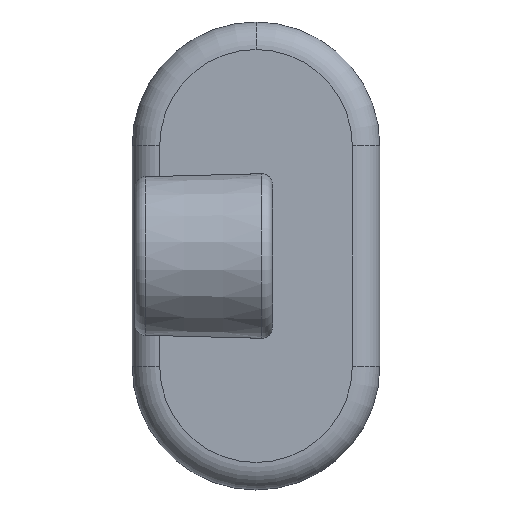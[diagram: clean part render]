
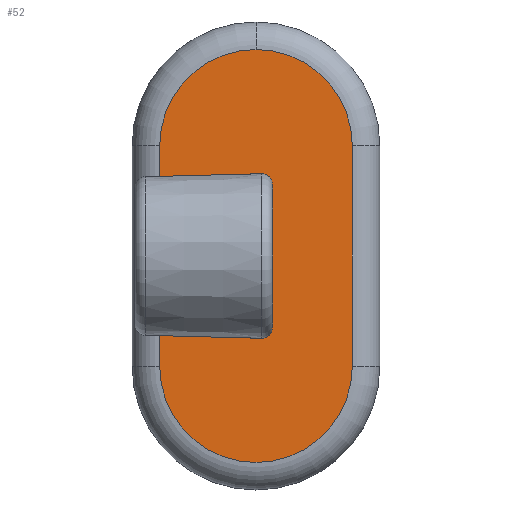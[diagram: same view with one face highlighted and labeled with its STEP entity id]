
A CAD part, left-side view. The second image highlights one B-rep face of the part: STEP entity #52.
In plain terms, the highlighted planar face has unit normal (-1, 0, 0).
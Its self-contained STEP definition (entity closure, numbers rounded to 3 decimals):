
#5 = EDGE_CURVE ( 'Defeatured_0_22+Defeatured_0_28+Defeatured_0_30+Defeatured_0_27', #522, #106, #660, .T. ) ;
#6 = LINE ( 'NONE', #1165, #885 ) ;
#12 = FACE_BOUND ( 'NONE', #1329, .T. ) ;
#14 = EDGE_CURVE ( 'Defeatured_0_6+Defeatured_0_22+Defeatured_0_3+Defeatured_0_0', #1139, #1434, #1444, .T. ) ;
#15 = VERTEX_POINT ( 'NONE', #714 ) ;
#31 = CIRCLE ( 'NONE', #1638, 2. ) ;
#52 = ADVANCED_FACE ( 'Defeatured_0_22', ( #12, #839 ), #287, .F. ) ;
#70 = LINE ( 'NONE', #1202, #458 ) ;
#73 = DIRECTION ( 'NONE',  ( 0., 1., 0. ) ) ;
#100 = CARTESIAN_POINT ( 'NONE',  ( 49.894, 2., -12.947 ) ) ;
#106 = VERTEX_POINT ( 'NONE', #1308 ) ;
#143 = CARTESIAN_POINT ( 'NONE',  ( 49.894, 3., 20. ) ) ;
#176 = EDGE_CURVE ( 'Defeatured_0_7+Defeatured_0_22+Defeatured_0_1+Defeatured_0_3', #15, #1318, #605, .T. ) ;
#177 = ORIENTED_EDGE ( 'NONE', *, *, #1358, .T. ) ;
#178 = VECTOR ( 'NONE', #1804, 1000. ) ;
#213 = ORIENTED_EDGE ( 'NONE', *, *, #176, .F. ) ;
#233 = AXIS2_PLACEMENT_3D ( 'NONE', #650, #1223, #1813 ) ;
#238 = AXIS2_PLACEMENT_3D ( 'NONE', #1154, #1752, #1744 ) ;
#240 = AXIS2_PLACEMENT_3D ( 'NONE', #1592, #1159, #436 ) ;
#261 = LINE ( 'NONE', #680, #388 ) ;
#286 = CARTESIAN_POINT ( 'NONE',  ( 49.894, 2., 12.947 ) ) ;
#287 = PLANE ( 'NONE',  #876 ) ;
#302 = EDGE_LOOP ( 'NONE', ( #1402, #812, #1615, #728, #1860 ) ) ;
#306 = EDGE_CURVE ( 'Defeatured_0_22+Defeatured_0_0+Defeatured_0_5+Defeatured_0_6', #748, #1717, #492, .T. ) ;
#309 = CARTESIAN_POINT ( 'NONE',  ( 49.894, 2.052, 14.946 ) ) ;
#311 = CARTESIAN_POINT ( 'NONE',  ( 49.894, 6., 12.895 ) ) ;
#333 = CIRCLE ( 'NONE', #577, 2. ) ;
#348 = VERTEX_POINT ( 'NONE', #461 ) ;
#386 = DIRECTION ( 'NONE',  ( -1., 0., 0. ) ) ;
#388 = VECTOR ( 'NONE', #1247, 1000. ) ;
#422 = LINE ( 'NONE', #1309, #428 ) ;
#428 = VECTOR ( 'NONE', #882, 1000. ) ;
#436 = DIRECTION ( 'NONE',  ( 0., 0., 1. ) ) ;
#451 = AXIS2_PLACEMENT_3D ( 'NONE', #286, #1132, #73 ) ;
#458 = VECTOR ( 'NONE', #1622, 1000. ) ;
#461 = CARTESIAN_POINT ( 'NONE',  ( 49.894, -14.5, 20. ) ) ;
#485 = ORIENTED_EDGE ( 'NONE', *, *, #306, .T. ) ;
#492 = LINE ( 'NONE', #1067, #178 ) ;
#498 = ORIENTED_EDGE ( 'NONE', *, *, #1275, .F. ) ;
#507 = EDGE_CURVE ( 'Defeatured_0_6+Defeatured_0_22+Defeatured_0_3+Defeatured_0_0', #1434, #1717, #1292, .T. ) ;
#511 = CARTESIAN_POINT ( 'NONE',  ( 49.894, 4., 12.895 ) ) ;
#522 = VERTEX_POINT ( 'NONE', #1009 ) ;
#563 = EDGE_CURVE ( 'Defeatured_0_5+Defeatured_0_22+Defeatured_0_0+Defeatured_0_2', #748, #1370, #333, .T. ) ;
#571 = EDGE_CURVE ( 'Defeatured_0_4+Defeatured_0_22+Defeatured_0_2+Defeatured_0_1', #1158, #625, #31, .T. ) ;
#577 = AXIS2_PLACEMENT_3D ( 'NONE', #511, #683, #1107 ) ;
#587 = ORIENTED_EDGE ( 'NONE', *, *, #1863, .F. ) ;
#605 = CIRCLE ( 'NONE', #1201, 2. ) ;
#625 = VERTEX_POINT ( 'NONE', #1048 ) ;
#632 = VERTEX_POINT ( 'NONE', #766 ) ;
#650 = CARTESIAN_POINT ( 'NONE',  ( 49.894, 3., -20. ) ) ;
#660 = CIRCLE ( 'NONE', #233, 17.5 ) ;
#680 = CARTESIAN_POINT ( 'NONE',  ( 49.894, 0., 15. ) ) ;
#682 = EDGE_CURVE ( 'Defeatured_0_22+Defeatured_0_29+Defeatured_0_27+Defeatured_0_30', #872, #632, #1030, .T. ) ;
#683 = DIRECTION ( 'NONE',  ( -1., 0., 0. ) ) ;
#714 = CARTESIAN_POINT ( 'NONE',  ( 49.894, 2.052, -14.946 ) ) ;
#724 = DIRECTION ( 'NONE',  ( 0., 0., 1. ) ) ;
#726 = DIRECTION ( 'NONE',  ( 0., 0., 1. ) ) ;
#728 = ORIENTED_EDGE ( 'NONE', *, *, #5, .T. ) ;
#730 = CARTESIAN_POINT ( 'NONE',  ( 49.894, 0., -12.947 ) ) ;
#740 = CARTESIAN_POINT ( 'NONE',  ( 49.894, 2., 14.947 ) ) ;
#748 = VERTEX_POINT ( 'NONE', #1526 ) ;
#756 = AXIS2_PLACEMENT_3D ( 'NONE', #1299, #870, #1453 ) ;
#766 = CARTESIAN_POINT ( 'NONE',  ( 49.894, 20.5, 20. ) ) ;
#784 = DIRECTION ( 'NONE',  ( -1., 0., 0. ) ) ;
#791 = CARTESIAN_POINT ( 'NONE',  ( 49.894, 6., -12.895 ) ) ;
#792 = VECTOR ( 'NONE', #1771, 1000. ) ;
#812 = ORIENTED_EDGE ( 'NONE', *, *, #682, .T. ) ;
#824 = ORIENTED_EDGE ( 'NONE', *, *, #14, .F. ) ;
#837 = DIRECTION ( 'NONE',  ( 0., 1., 0. ) ) ;
#839 = FACE_OUTER_BOUND ( 'NONE', #302, .T. ) ;
#870 = DIRECTION ( 'NONE',  ( -1., 0., 0. ) ) ;
#872 = VERTEX_POINT ( 'NONE', #1115 ) ;
#876 = AXIS2_PLACEMENT_3D ( 'NONE', #143, #1589, #724 ) ;
#882 = DIRECTION ( 'NONE',  ( 0., 0., -1. ) ) ;
#885 = VECTOR ( 'NONE', #726, 1000. ) ;
#886 = DIRECTION ( 'NONE',  ( -1., 0., 0. ) ) ;
#904 = CARTESIAN_POINT ( 'NONE',  ( 49.894, 2., -14.947 ) ) ;
#923 = ORIENTED_EDGE ( 'NONE', *, *, #571, .F. ) ;
#1000 = CIRCLE ( 'NONE', #240, 17.5 ) ;
#1006 = CARTESIAN_POINT ( 'NONE',  ( 49.894, 0., -15. ) ) ;
#1009 = CARTESIAN_POINT ( 'NONE',  ( 49.894, 20.5, -20. ) ) ;
#1021 = DIRECTION ( 'NONE',  ( 0., 1., 0. ) ) ;
#1030 = CIRCLE ( 'NONE', #238, 17.5 ) ;
#1033 = AXIS2_PLACEMENT_3D ( 'NONE', #100, #886, #1021 ) ;
#1048 = CARTESIAN_POINT ( 'NONE',  ( 49.894, 4.052, -14.894 ) ) ;
#1067 = CARTESIAN_POINT ( 'NONE',  ( 49.894, 0., 15. ) ) ;
#1107 = DIRECTION ( 'NONE',  ( 0., 1., 0. ) ) ;
#1115 = CARTESIAN_POINT ( 'NONE',  ( 49.894, 3., 37.5 ) ) ;
#1132 = DIRECTION ( 'NONE',  ( -1., 0., 0. ) ) ;
#1139 = VERTEX_POINT ( 'NONE', #1790 ) ;
#1154 = CARTESIAN_POINT ( 'NONE',  ( 49.894, 3., 20. ) ) ;
#1158 = VERTEX_POINT ( 'NONE', #791 ) ;
#1159 = DIRECTION ( 'NONE',  ( -1., 0., 0. ) ) ;
#1165 = CARTESIAN_POINT ( 'NONE',  ( 49.894, -14.5, 20. ) ) ;
#1168 = ORIENTED_EDGE ( 'NONE', *, *, #1229, .T. ) ;
#1201 = AXIS2_PLACEMENT_3D ( 'NONE', #1768, #784, #1338 ) ;
#1202 = CARTESIAN_POINT ( 'NONE',  ( 49.894, 6., 15. ) ) ;
#1223 = DIRECTION ( 'NONE',  ( -1., 0., 0. ) ) ;
#1229 = EDGE_CURVE ( 'Defeatured_0_22+Defeatured_0_3+Defeatured_0_6+Defeatured_0_7', #1139, #1398, #261, .T. ) ;
#1247 = DIRECTION ( 'NONE',  ( 0., 0., -1. ) ) ;
#1275 = EDGE_CURVE ( 'Defeatured_0_7+Defeatured_0_22+Defeatured_0_1+Defeatured_0_3', #1318, #1398, #1640, .T. ) ;
#1290 = LINE ( 'NONE', #1006, #792 ) ;
#1292 = CIRCLE ( 'NONE', #451, 2. ) ;
#1299 = CARTESIAN_POINT ( 'NONE',  ( 49.894, 2., 12.947 ) ) ;
#1308 = CARTESIAN_POINT ( 'NONE',  ( 49.894, -14.5, -20. ) ) ;
#1309 = CARTESIAN_POINT ( 'NONE',  ( 49.894, 20.5, 20. ) ) ;
#1318 = VERTEX_POINT ( 'NONE', #904 ) ;
#1329 = EDGE_LOOP ( 'NONE', ( #1404, #485, #1625, #824, #1168, #498, #213, #177, #923, #587 ) ) ;
#1338 = DIRECTION ( 'NONE',  ( 0., 1., 0. ) ) ;
#1358 = EDGE_CURVE ( 'Defeatured_0_22+Defeatured_0_1+Defeatured_0_7+Defeatured_0_4', #15, #625, #1290, .T. ) ;
#1370 = VERTEX_POINT ( 'NONE', #311 ) ;
#1398 = VERTEX_POINT ( 'NONE', #730 ) ;
#1401 = EDGE_CURVE ( 'Defeatured_0_22+Defeatured_0_29+Defeatured_0_27+Defeatured_0_30', #348, #872, #1000, .T. ) ;
#1402 = ORIENTED_EDGE ( 'NONE', *, *, #1401, .T. ) ;
#1404 = ORIENTED_EDGE ( 'NONE', *, *, #563, .F. ) ;
#1434 = VERTEX_POINT ( 'NONE', #740 ) ;
#1444 = CIRCLE ( 'NONE', #756, 2. ) ;
#1453 = DIRECTION ( 'NONE',  ( 0., 1., 0. ) ) ;
#1526 = CARTESIAN_POINT ( 'NONE',  ( 49.894, 4.052, 14.894 ) ) ;
#1589 = DIRECTION ( 'NONE',  ( 1., 0., 0. ) ) ;
#1592 = CARTESIAN_POINT ( 'NONE',  ( 49.894, 3., 20. ) ) ;
#1615 = ORIENTED_EDGE ( 'NONE', *, *, #1749, .T. ) ;
#1622 = DIRECTION ( 'NONE',  ( 0., 0., -1. ) ) ;
#1625 = ORIENTED_EDGE ( 'NONE', *, *, #507, .F. ) ;
#1638 = AXIS2_PLACEMENT_3D ( 'NONE', #1688, #386, #837 ) ;
#1640 = CIRCLE ( 'NONE', #1033, 2. ) ;
#1688 = CARTESIAN_POINT ( 'NONE',  ( 49.894, 4., -12.895 ) ) ;
#1717 = VERTEX_POINT ( 'NONE', #309 ) ;
#1744 = DIRECTION ( 'NONE',  ( 0., 0., 1. ) ) ;
#1749 = EDGE_CURVE ( 'Defeatured_0_22+Defeatured_0_30+Defeatured_0_29+Defeatured_0_28', #632, #522, #422, .T. ) ;
#1752 = DIRECTION ( 'NONE',  ( -1., 0., 0. ) ) ;
#1768 = CARTESIAN_POINT ( 'NONE',  ( 49.894, 2., -12.947 ) ) ;
#1771 = DIRECTION ( 'NONE',  ( 0., 1., 0.026 ) ) ;
#1776 = EDGE_CURVE ( 'Defeatured_0_22+Defeatured_0_27+Defeatured_0_28+Defeatured_0_29', #106, #348, #6, .T. ) ;
#1790 = CARTESIAN_POINT ( 'NONE',  ( 49.894, 0., 12.947 ) ) ;
#1804 = DIRECTION ( 'NONE',  ( 0., -1., 0.026 ) ) ;
#1813 = DIRECTION ( 'NONE',  ( 0., 0., 1. ) ) ;
#1860 = ORIENTED_EDGE ( 'NONE', *, *, #1776, .T. ) ;
#1863 = EDGE_CURVE ( 'Defeatured_0_2+Defeatured_0_22+Defeatured_0_5+Defeatured_0_4', #1370, #1158, #70, .T. ) ;
